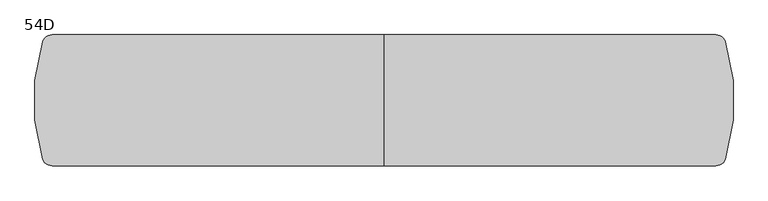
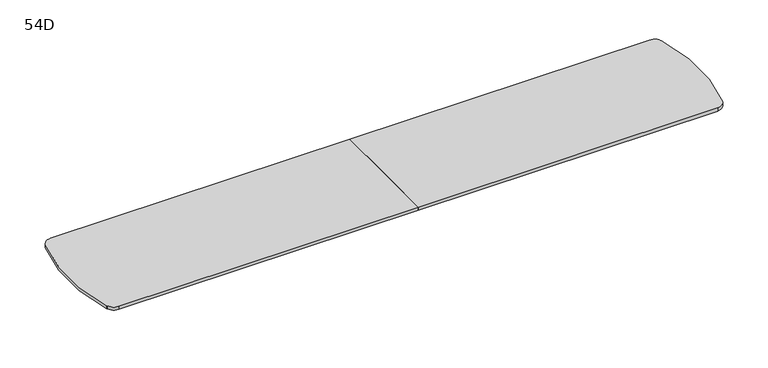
"""IFC4 building model written with IfcOpenShell, lengths in millimetres: furniture geometry, Coalesse_AM_Table_Conference_ETable2_SoftRadiused_24ft_FourBase : 54D."""

from ifc_helpers import new_model, si_unit, point, frame, frame_2d, origin, place, context, project, spatial, polyline, circle_curve, trimmed, segment, composite_curve, outline, extrude, source, transform, mapped, element, save


def furniture_54d_bbad1931(model_context):
    return source(origin(), model_context, "Body", "SweptSolid", [
        extrude(outline(composite_curve([segment(polyline([(0.0, 19.0117629), (0.0, 685.8), (3468.4557965, 685.8)]), True, "CONTINUOUS"), segment(trimmed(circle_curve(frame_2d((3468.4557965, 584.2)), 101.6), [point((3468.4557965, 685.8))], [point((3564.2453259, 618.0662966))], False, "CARTESIAN"), True, "CONTINUOUS"), segment(polyline([(3564.2453259, 618.0662966), (3564.9956256, 615.9441026)]), True, "CONTINUOUS"), segment(trimmed(circle_curve(frame_2d((1562.8679193, 0.0)), 2094.7320807), [point((3564.9956256, 615.9441026))], [point((3564.9956256, -615.9441026))], False, "CARTESIAN"), True, "CONTINUOUS"), segment(polyline([(3564.9956256, -615.9441026), (3564.2453259, -618.0662966)]), True, "CONTINUOUS"), segment(trimmed(circle_curve(frame_2d((3468.4557965, -584.2)), 101.6), [point((3564.2453259, -618.0662966))], [point((3468.4557965, -685.8))], False, "CARTESIAN"), True, "CONTINUOUS"), segment(polyline([(3468.4557965, -685.8), (0.0, -685.8), (0.0, 19.0117629)]), True, "CONTINUOUS")], self_intersect=False)), frame((0.0, 0.0, 698.5), z_axis=(0.0, 0.0, 1.0), x_axis=(1.0, 0.0, 0.0)), (0.0, 0.0, 1.0), 38.1),
        extrude(outline(composite_curve([segment(polyline([(0.0, 1.2645153), (0.0, -685.8), (-3468.4557965, -685.8)]), True, "CONTINUOUS"), segment(trimmed(circle_curve(frame_2d((-3468.4557965, -584.2)), 101.6), [point((-3468.4557965, -685.8))], [point((-3564.2453259, -618.0662966))], False, "CARTESIAN"), True, "CONTINUOUS"), segment(polyline([(-3564.2453259, -618.0662966), (-3564.9956256, -615.9441026)]), True, "CONTINUOUS"), segment(trimmed(circle_curve(frame_2d((-1562.8679193, 0.0)), 2094.7320807), [point((-3564.9956256, -615.9441026))], [point((-3564.9956256, 615.9441026))], False, "CARTESIAN"), True, "CONTINUOUS"), segment(polyline([(-3564.9956256, 615.9441026), (-3564.2453259, 618.0662966)]), True, "CONTINUOUS"), segment(trimmed(circle_curve(frame_2d((-3468.4557965, 584.2)), 101.6), [point((-3564.2453259, 618.0662966))], [point((-3468.4557965, 685.8))], False, "CARTESIAN"), True, "CONTINUOUS"), segment(polyline([(-3468.4557965, 685.8), (0.0, 685.8), (0.0, 1.2645153)]), True, "CONTINUOUS")], self_intersect=False)), frame((0.0, 0.0, 698.5), z_axis=(0.0, 0.0, 1.0), x_axis=(1.0, 0.0, 0.0)), (0.0, 0.0, 1.0), 38.1),
        extrude(outline(polyline([(96.8375, 698.5), (103.1875, 698.5), (103.1875, 476.25), (-103.1875, 476.25), (-103.1875, 698.5), (-96.8375, 698.5), (-96.8375, 482.6), (96.8375, 482.6), (96.8375, 698.5)])), frame((-3028.95, 0.0, 0.0), z_axis=(1.0, 0.0, 0.0), x_axis=(0.0, 1.0, 0.0)), (0.0, 0.0, 1.0), 6057.9),
    ])


if __name__ == "__main__":
    model = new_model("IFC4")
    model_context = context("Model", 3, world=origin())
    ifc_project = project(units=[si_unit("LENGTHUNIT", "METRE", prefix="MILLI")], contexts=[model_context])
    site = spatial("IfcSite", under=ifc_project)
    building = spatial("IfcBuilding", under=site)
    placement = place(None, origin())
    furniture_54d_shape = furniture_54d_bbad1931(model_context)
    element("IfcFurniture", 1, ObjectType="Coalesse_AM_Table_Conference_ETable2_SoftRadiused_24ft_FourBase : 54D", at=placement, inside=building, context=model_context, shape_type="MappedRepresentation", body=[
        mapped(furniture_54d_shape, transform((0.0, 0.0, 0.0), x_axis=(1.0, 0.0, 0.0), y_axis=(0.0, 1.0, 0.0), z_axis=(0.0, 0.0, 1.0))),
    ])
    save(model, "model.ifc")
